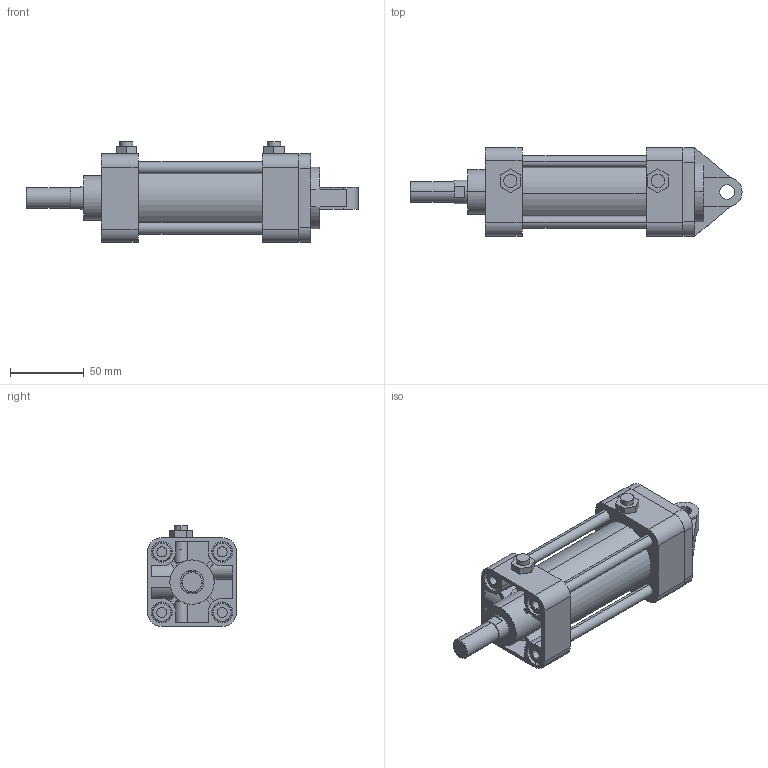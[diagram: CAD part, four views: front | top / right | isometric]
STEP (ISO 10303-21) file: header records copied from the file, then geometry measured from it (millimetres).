
FILE_DESCRIPTION (( 'STEP AP203' ), '1' );
FILE_NAME ('KG2-40-50-C.STEP', '2016-04-01T08:08:57', ( '' ), ( '' ), 'SwSTEP 2.0', 'SolidWorks 2014', '' );
FILE_SCHEMA (( 'CONFIG_CONTROL_DESIGN' ));
Length unit declared in the file: millimetre
Products named in the file (7): KG2-40-50-C; KGLH2-40-50; KG2-40-After; K-40-C
Assembly tree (16 placements, depth 2):
  KG2-40-50-C
    KG2-40-After
    KGLH2-40-50
    (unnamed)
    (unnamed)  x4
    (unnamed)  x8
    K-40-C
Bounding box: 225 x 60 x 68.3 mm (x, y, z)
Volume: 349989.5 mm3; surface area: 96557.7 mm2
Topology: 16 solids, 21 shells, 368 faces, 864 edges, 553 vertices
Faces by surface type: plane 162, cylinder 148, torus 32, cone 26
Entity records: 9539 total; most frequent: CARTESIAN_POINT 1829, DIRECTION 1462, ORIENTED_EDGE 1348, EDGE_CURVE 674, AXIS2_PLACEMENT_3D 541, VERTEX_POINT 443, LINE 380, VECTOR 380
